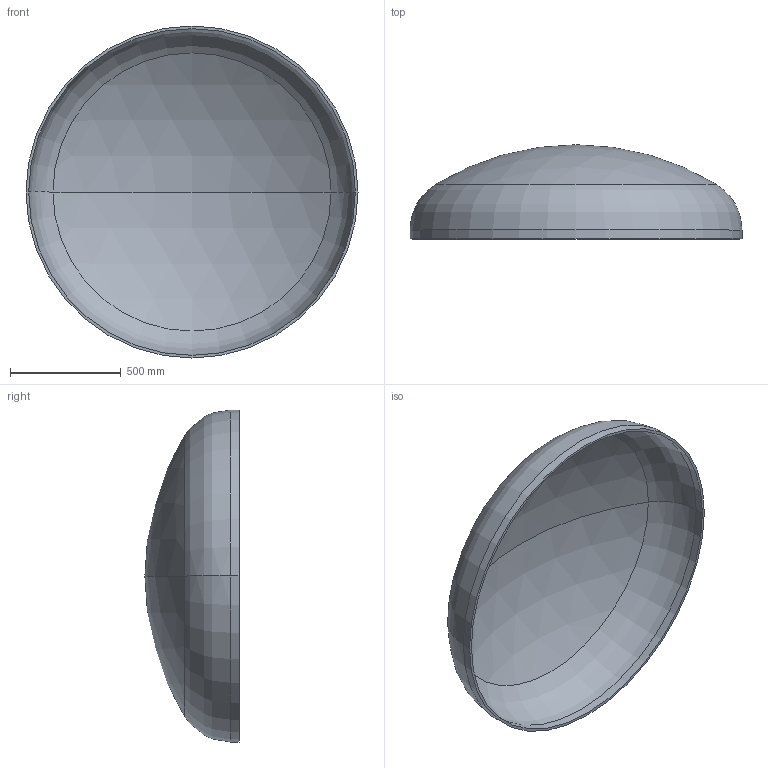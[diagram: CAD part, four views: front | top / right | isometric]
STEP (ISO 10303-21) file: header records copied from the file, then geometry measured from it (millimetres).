
FILE_DESCRIPTION (( 'STEP AP203' ), '1' );
FILE_NAME ('DIN 28013 Korbbogenform_-_Boden DIN 28013 - 1500 x 40 - I - s=12.step', '2016-07-01T10:35:58', ( '' ), ( '' ), 'SwSTEP 2.0', 'SolidWorks 2013', '' );
FILE_SCHEMA (( 'CONFIG_CONTROL_DESIGN' ));
Length unit declared in the file: millimetre
Products named in the file (1): DIN 28013 Korbbogenform_-_Boden DIN 28013 - 1500 x 40 - I - s=12
Bounding box: 1500 x 425.66 x 1500 mm (x, y, z)
Volume: 31280026.7 mm3; surface area: 5269733.7 mm2
Topology: 1 solids, 1 shells, 13 faces, 24 edges, 14 vertices
Faces by surface type: torus 4, cylinder 4, sphere 4, plane 1
Entity records: 407 total; most frequent: DIRECTION 72, CARTESIAN_POINT 52, ORIENTED_EDGE 48, AXIS2_PLACEMENT_3D 34, EDGE_CURVE 24, CIRCLE 20, VERTEX_POINT 14, EDGE_LOOP 14
